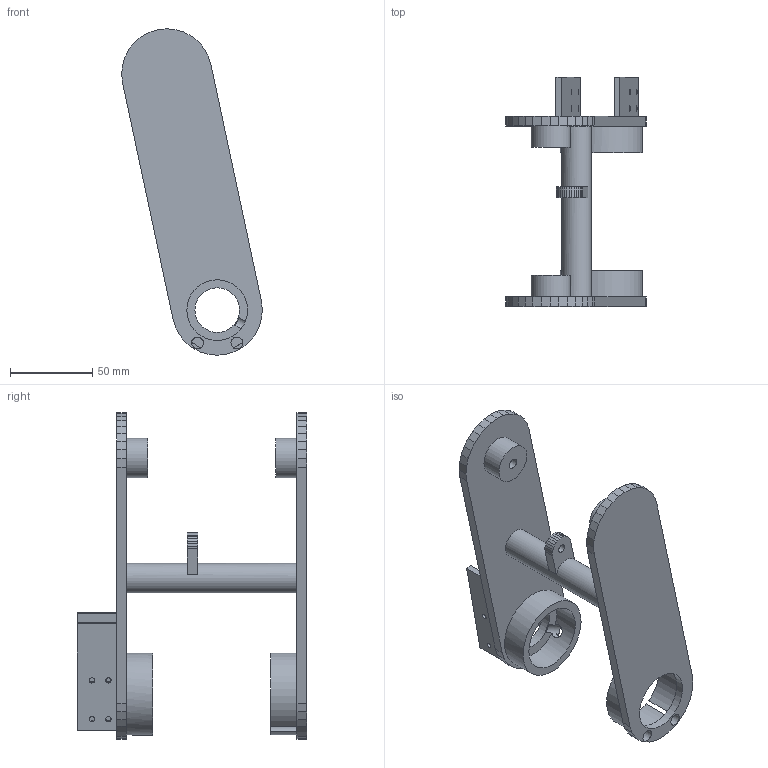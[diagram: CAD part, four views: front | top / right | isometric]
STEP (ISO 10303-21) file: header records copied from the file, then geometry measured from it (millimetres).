
FILE_DESCRIPTION(('Open CASCADE Model'),'2;1');
FILE_NAME('Open CASCADE Shape Model','2026-10-15T20:06:57',('Author'),( 'Open CASCADE'),'Open CASCADE STEP processor 7.9','Open CASCADE 7.9' ,'Unknown');
FILE_SCHEMA(('AUTOMOTIVE_DESIGN { 1 0 10303 214 1 1 1 1 }'));
Length unit declared in the file: millimetre
Products named in the file (1): Open CASCADE STEP translator 7.9 3
Bounding box: 85.74 x 140 x 199.03 mm (x, y, z)
Volume: 175934.1 mm3; surface area: 74475.6 mm2
Topology: 1 solids, 1 shells, 147 faces, 405 edges, 270 vertices
Faces by surface type: plane 117, cylinder 30
Full cylindrical faces by diameter (mm): 3 x3, 3.3 x8, 4.9 x1, 6.3 x2, 7.2 x2, 8 x1, 11 x2, 18 x1, 24 x2, 27.2 x1, 37 x1, 40 x1, 50 x1
Entity records: 11492 total; most frequent: CARTESIAN_POINT 3456, DIRECTION 1446, LINE 997, VECTOR 997, ORIENTED_EDGE 810, PCURVE 810, DEFINITIONAL_REPRESENTATION 810, EDGE_CURVE 405
